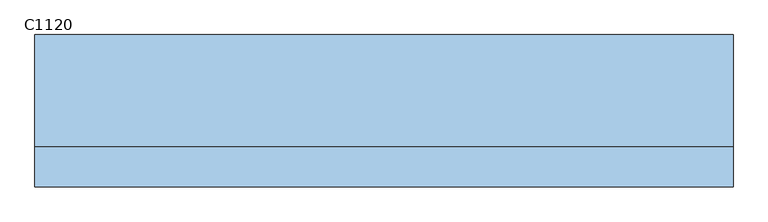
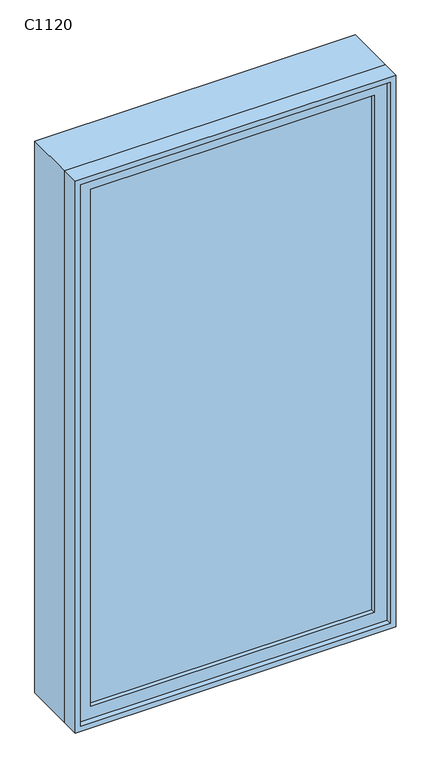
"""IFC4 building model written with IfcOpenShell, lengths in millimetres: window geometry, 固定 : C1120."""

from ifc_helpers import new_model, si_unit, frame, origin, place, context, project, spatial, polyline, outline, extrude, source, transform, mapped, element, save


def c1120_e84b940f(model_context):
    return source(origin(), model_context, "Body", "SweptSolid", [
        extrude(outline(polyline([(-487.0, -98.0), (-487.0, -86.0), (487.0, -86.0), (487.0, -98.0), (-487.0, -98.0)])), frame((0.0, 0.0, 963.0), z_axis=(0.0, 0.0, 1.0), x_axis=(1.0, 0.0, 0.0)), (0.0, 0.0, 1.0), 1874.0),
        extrude(outline(polyline([(2881.0, -531.0), (919.0, -531.0), (919.0, 531.0), (2881.0, 531.0), (2881.0, -531.0)]), holes=[polyline([(2837.0, -487.0), (2837.0, 487.0), (963.0, 487.0), (963.0, -487.0), (2837.0, -487.0)])]), frame((0.0, -114.0, 0.0), z_axis=(0.0, 1.0, 0.0), x_axis=(0.0, 0.0, 1.0)), (0.0, 0.0, 1.0), 44.0),
        extrude(outline(polyline([(2900.0, -550.0), (900.0, -550.0), (900.0, 550.0), (2900.0, 550.0), (2900.0, -550.0)]), holes=[polyline([(2881.0, -531.0), (2881.0, 531.0), (919.0, 531.0), (919.0, -531.0), (2881.0, -531.0)])]), frame((0.0, -133.0, 0.0), z_axis=(0.0, 1.0, 0.0), x_axis=(0.0, 0.0, 1.0)), (0.0, 0.0, 1.0), 63.0),
        extrude(outline(polyline([(2900.0, -550.0), (900.0, -550.0), (900.0, 550.0), (2900.0, 550.0), (2900.0, -550.0)]), holes=[polyline([(2868.0, -518.0), (2868.0, 518.0), (932.0, 518.0), (932.0, -518.0), (2868.0, -518.0)])]), frame((0.0, -70.0, 0.0), z_axis=(0.0, 1.0, 0.0), x_axis=(0.0, 0.0, 1.0)), (0.0, 0.0, 1.0), 177.0),
    ])


if __name__ == "__main__":
    model = new_model("IFC4")
    model_context = context("Model", 3, world=origin())
    ifc_project = project(units=[si_unit("LENGTHUNIT", "METRE", prefix="MILLI")], contexts=[model_context])
    site = spatial("IfcSite", under=ifc_project)
    building = spatial("IfcBuilding", under=site)
    placement = place(None, origin())
    c1120_shape = c1120_e84b940f(model_context)
    element("IfcWindow", 1, ObjectType="固定 : C1120", at=placement, inside=building, context=model_context, shape_type="MappedRepresentation", body=[
        mapped(c1120_shape, transform((0.0, 0.0, 0.0), x_axis=(1.0, 0.0, 0.0), y_axis=(0.0, 1.0, 0.0), z_axis=(0.0, 0.0, 1.0))),
    ])
    save(model, "model.ifc")
